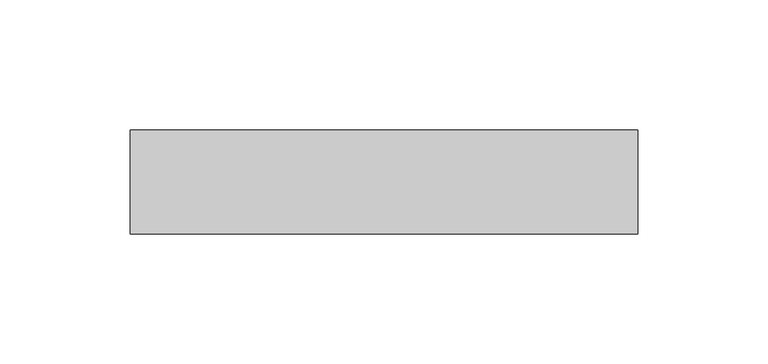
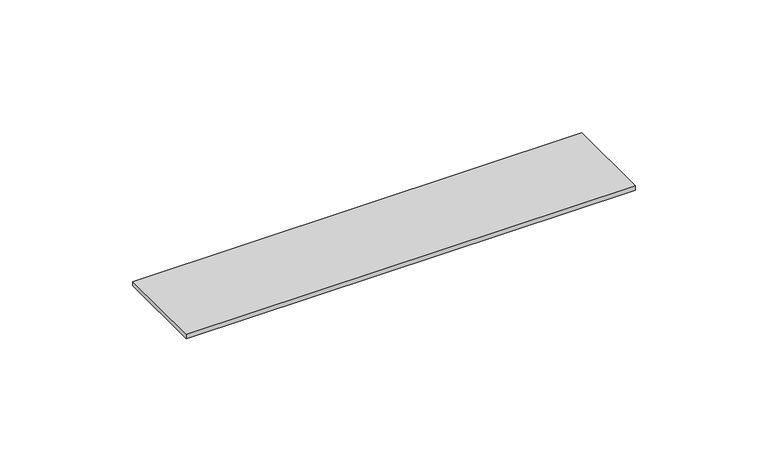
"""IFC4 building model written with IfcOpenShell, lengths in millimetres: duct fitting geometry, Накладка на стык - для крышек - для кабель-канала DLP - белый : 40мм."""

from ifc_helpers import new_model, si_unit, origin, origin_with_axes, place, context, project, spatial, polyline, outline, extrude, source, transform, mapped, element, save


def duct_fitting_5159cedb(model_context):
    return source(origin(), model_context, "Body", "SweptSolid", [
        extrude(outline(polyline([(97.5, 20.0), (97.5, -20.0), (-97.5, -20.0), (-97.5, 20.0), (97.5, 20.0)])), origin_with_axes(), (0.0, 0.0, 1.0), 2.0),
    ])


if __name__ == "__main__":
    model = new_model("IFC4")
    model_context = context("Model", 3, world=origin())
    ifc_project = project(units=[si_unit("LENGTHUNIT", "METRE", prefix="MILLI")], contexts=[model_context])
    site = spatial("IfcSite", under=ifc_project)
    building = spatial("IfcBuilding", under=site)
    placement = place(None, origin())
    duct_fitting_shape = duct_fitting_5159cedb(model_context)
    element("IfcDuctFitting", 1, ObjectType="Накладка на стык - для крышек - для кабель-канала DLP - белый : 40мм", at=placement, inside=building, context=model_context, shape_type="MappedRepresentation", body=[
        mapped(duct_fitting_shape, transform((0.0, 0.0, 0.0), x_axis=(1.0, 0.0, 0.0), y_axis=(0.0, 1.0, 0.0), z_axis=(0.0, 0.0, 1.0))),
    ])
    save(model, "model.ifc")
